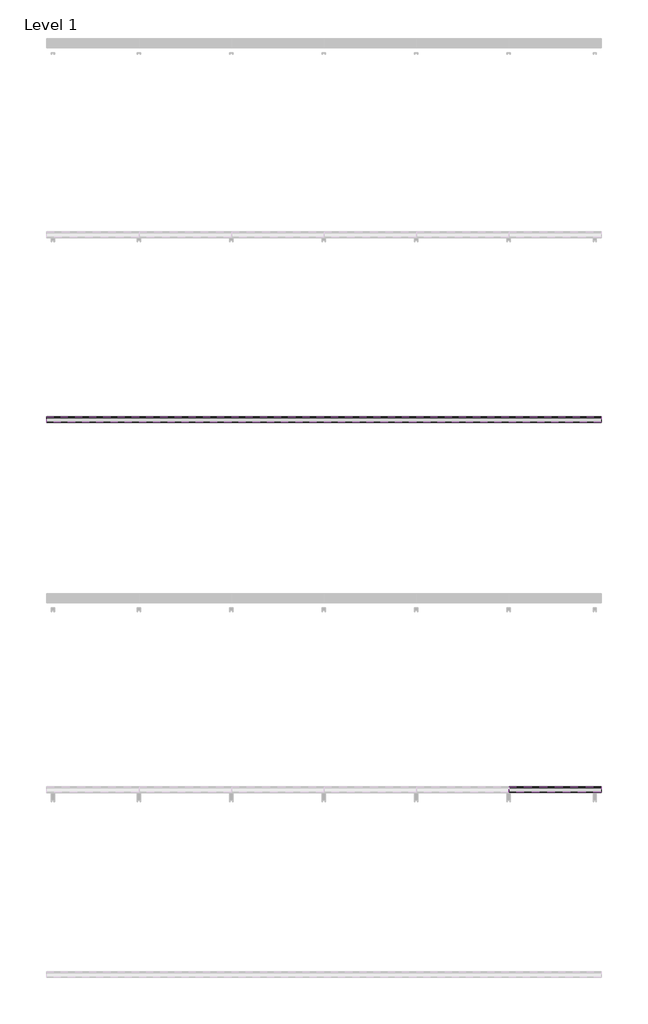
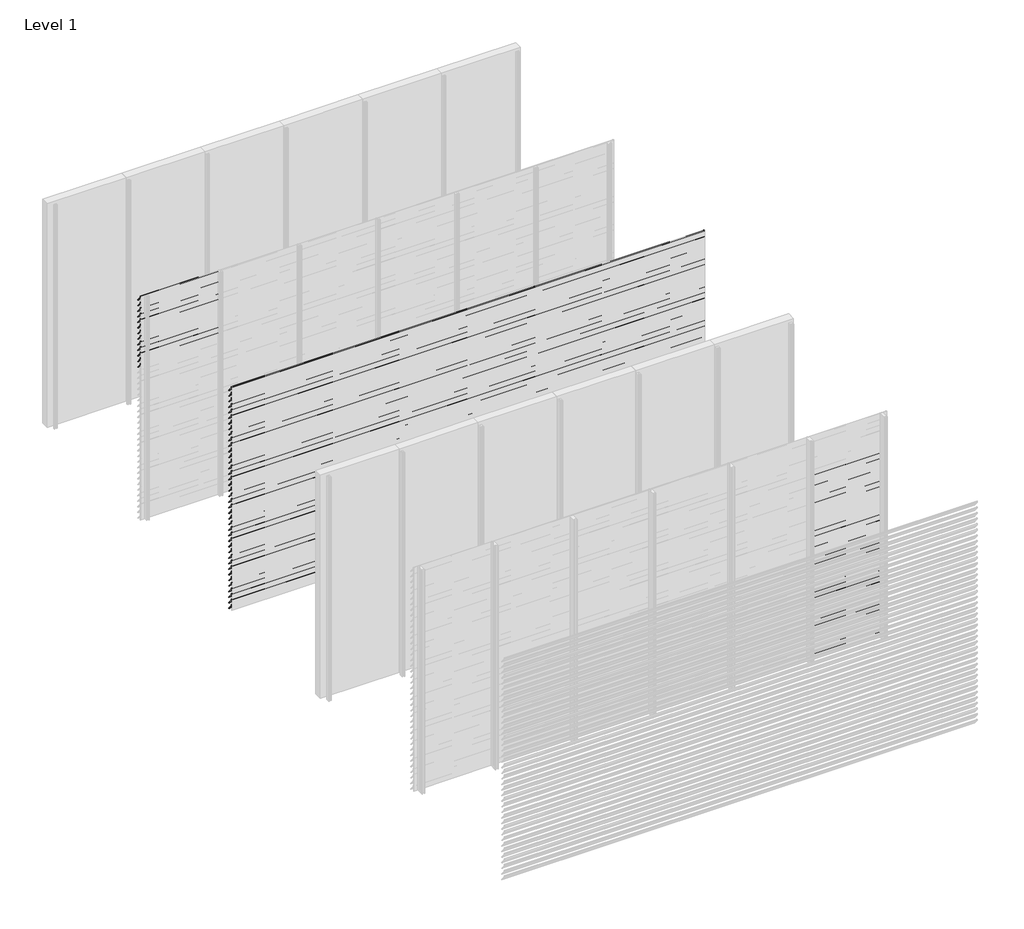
# One storey, part 26 of 35: 86 proxies.
"""IFC4 building model written with IfcOpenShell, lengths in millimetres."""

from ifc_helpers import new_model, si_unit, frame, origin, place, context, project, spatial, polyline, outline, extrude, element, save

model = new_model("IFC4")

# Units and contexts
model_context = context("Model", 3, world=origin())
ifc_project = project(units=[si_unit("LENGTHUNIT", "METRE", prefix="MILLI")], contexts=[model_context])

# Site, building, storey
site = spatial("IfcSite", under=ifc_project)
building = spatial("IfcBuilding", under=site)
storey = spatial("IfcBuildingStorey", under=building, Name="Level 1", Elevation=0.0)

# Proxies
placement = place(None, origin())
element("IfcBuildingElementProxy", 1, Name="Wall Sweeps", at=placement, inside=storey, context=model_context, shape_type="SweptSolid", body=[
    extrude(outline(polyline([(-11996.5, 3000.0), (-11996.5, 2985.5463701), (-11934.5, 2913.9330051), (-11934.5, 2910.4), (-11936.0, 2910.4), (-11936.0, 2913.3738975), (-11998.0, 2984.9872626), (-11998.0, 3000.0), (-11996.5, 3000.0)])), frame((0.0, 0.0, 0.0), z_axis=(1.0, 0.0, 0.0), x_axis=(0.0, 1.0, 0.0)), (0.0, 0.0, 1.0), 1000.0),
])
element("IfcBuildingElementProxy", 2, Name="Wall Sweeps", at=placement, inside=storey, context=model_context, shape_type="SweptSolid", body=[
    extrude(outline(polyline([(-11996.5, 2925.0), (-11996.5, 2910.5463701), (-11934.5, 2838.9330051), (-11934.5, 2835.4), (-11936.0, 2835.4), (-11936.0, 2838.3738975), (-11998.0, 2909.9872626), (-11998.0, 2925.0), (-11996.5, 2925.0)])), frame((0.0, 0.0, 0.0), z_axis=(1.0, 0.0, 0.0), x_axis=(0.0, 1.0, 0.0)), (0.0, 0.0, 1.0), 1000.0),
])
element("IfcBuildingElementProxy", 3, Name="Wall Sweeps", at=placement, inside=storey, context=model_context, shape_type="SweptSolid", body=[
    extrude(outline(polyline([(-11996.5, 2850.0), (-11996.5, 2835.5463701), (-11934.5, 2763.9330051), (-11934.5, 2760.4), (-11936.0, 2760.4), (-11936.0, 2763.3738975), (-11998.0, 2834.9872626), (-11998.0, 2850.0), (-11996.5, 2850.0)])), frame((0.0, 0.0, 0.0), z_axis=(1.0, 0.0, 0.0), x_axis=(0.0, 1.0, 0.0)), (0.0, 0.0, 1.0), 1000.0),
])
element("IfcBuildingElementProxy", 4, Name="Wall Sweeps", at=placement, inside=storey, context=model_context, shape_type="SweptSolid", body=[
    extrude(outline(polyline([(-11996.5, 2775.0), (-11996.5, 2760.5463701), (-11934.5, 2688.9330051), (-11934.5, 2685.4), (-11936.0, 2685.4), (-11936.0, 2688.3738975), (-11998.0, 2759.9872626), (-11998.0, 2775.0), (-11996.5, 2775.0)])), frame((0.0, 0.0, 0.0), z_axis=(1.0, 0.0, 0.0), x_axis=(0.0, 1.0, 0.0)), (0.0, 0.0, 1.0), 1000.0),
])
element("IfcBuildingElementProxy", 5, Name="Wall Sweeps", at=placement, inside=storey, context=model_context, shape_type="SweptSolid", body=[
    extrude(outline(polyline([(-11996.5, 2700.0), (-11996.5, 2685.5463701), (-11934.5, 2613.9330051), (-11934.5, 2610.4), (-11936.0, 2610.4), (-11936.0, 2613.3738975), (-11998.0, 2684.9872626), (-11998.0, 2700.0), (-11996.5, 2700.0)])), frame((0.0, 0.0, 0.0), z_axis=(1.0, 0.0, 0.0), x_axis=(0.0, 1.0, 0.0)), (0.0, 0.0, 1.0), 1000.0),
])
element("IfcBuildingElementProxy", 6, Name="Wall Sweeps", at=placement, inside=storey, context=model_context, shape_type="SweptSolid", body=[
    extrude(outline(polyline([(-11996.5, 2625.0), (-11996.5, 2610.5463701), (-11934.5, 2538.9330051), (-11934.5, 2535.4), (-11936.0, 2535.4), (-11936.0, 2538.3738975), (-11998.0, 2609.9872626), (-11998.0, 2625.0), (-11996.5, 2625.0)])), frame((0.0, 0.0, 0.0), z_axis=(1.0, 0.0, 0.0), x_axis=(0.0, 1.0, 0.0)), (0.0, 0.0, 1.0), 1000.0),
])
element("IfcBuildingElementProxy", 7, Name="Wall Sweeps", at=placement, inside=storey, context=model_context, shape_type="SweptSolid", body=[
    extrude(outline(polyline([(-11996.5, 2550.0), (-11996.5, 2535.5463701), (-11934.5, 2463.9330051), (-11934.5, 2460.4), (-11936.0, 2460.4), (-11936.0, 2463.3738975), (-11998.0, 2534.9872626), (-11998.0, 2550.0), (-11996.5, 2550.0)])), frame((0.0, 0.0, 0.0), z_axis=(1.0, 0.0, 0.0), x_axis=(0.0, 1.0, 0.0)), (0.0, 0.0, 1.0), 1000.0),
])
element("IfcBuildingElementProxy", 8, Name="Wall Sweeps", at=placement, inside=storey, context=model_context, shape_type="SweptSolid", body=[
    extrude(outline(polyline([(-11996.5, 2475.0), (-11996.5, 2460.5463701), (-11934.5, 2388.9330051), (-11934.5, 2385.4), (-11936.0, 2385.4), (-11936.0, 2388.3738975), (-11998.0, 2459.9872626), (-11998.0, 2475.0), (-11996.5, 2475.0)])), frame((0.0, 0.0, 0.0), z_axis=(1.0, 0.0, 0.0), x_axis=(0.0, 1.0, 0.0)), (0.0, 0.0, 1.0), 1000.0),
])
element("IfcBuildingElementProxy", 9, Name="Wall Sweeps", at=placement, inside=storey, context=model_context, shape_type="SweptSolid", body=[
    extrude(outline(polyline([(-11996.5, 2400.0), (-11996.5, 2385.5463701), (-11934.5, 2313.9330051), (-11934.5, 2310.4), (-11936.0, 2310.4), (-11936.0, 2313.3738975), (-11998.0, 2384.9872626), (-11998.0, 2400.0), (-11996.5, 2400.0)])), frame((0.0, 0.0, 0.0), z_axis=(1.0, 0.0, 0.0), x_axis=(0.0, 1.0, 0.0)), (0.0, 0.0, 1.0), 1000.0),
])
element("IfcBuildingElementProxy", 10, Name="Wall Sweeps", at=placement, inside=storey, context=model_context, shape_type="SweptSolid", body=[
    extrude(outline(polyline([(-11996.5, 2325.0), (-11996.5, 2310.5463701), (-11934.5, 2238.9330051), (-11934.5, 2235.4), (-11936.0, 2235.4), (-11936.0, 2238.3738975), (-11998.0, 2309.9872626), (-11998.0, 2325.0), (-11996.5, 2325.0)])), frame((0.0, 0.0, 0.0), z_axis=(1.0, 0.0, 0.0), x_axis=(0.0, 1.0, 0.0)), (0.0, 0.0, 1.0), 1000.0),
])
element("IfcBuildingElementProxy", 11, Name="Wall Sweeps", at=placement, inside=storey, context=model_context, shape_type="SweptSolid", body=[
    extrude(outline(polyline([(-11996.5, 2250.0), (-11996.5, 2235.5463701), (-11934.5, 2163.9330051), (-11934.5, 2160.4), (-11936.0, 2160.4), (-11936.0, 2163.3738975), (-11998.0, 2234.9872626), (-11998.0, 2250.0), (-11996.5, 2250.0)])), frame((0.0, 0.0, 0.0), z_axis=(1.0, 0.0, 0.0), x_axis=(0.0, 1.0, 0.0)), (0.0, 0.0, 1.0), 1000.0),
])
element("IfcBuildingElementProxy", 12, Name="Wall Sweeps", at=placement, inside=storey, context=model_context, shape_type="SweptSolid", body=[
    extrude(outline(polyline([(-11996.5, 2175.0), (-11996.5, 2160.5463701), (-11934.5, 2088.9330051), (-11934.5, 2085.4), (-11936.0, 2085.4), (-11936.0, 2088.3738975), (-11998.0, 2159.9872626), (-11998.0, 2175.0), (-11996.5, 2175.0)])), frame((0.0, 0.0, 0.0), z_axis=(1.0, 0.0, 0.0), x_axis=(0.0, 1.0, 0.0)), (0.0, 0.0, 1.0), 1000.0),
])
element("IfcBuildingElementProxy", 13, Name="Wall Sweeps", at=placement, inside=storey, context=model_context, shape_type="SweptSolid", body=[
    extrude(outline(polyline([(-11996.5, 2100.0), (-11996.5, 2085.5463701), (-11934.5, 2013.9330051), (-11934.5, 2010.4), (-11936.0, 2010.4), (-11936.0, 2013.3738975), (-11998.0, 2084.9872626), (-11998.0, 2100.0), (-11996.5, 2100.0)])), frame((0.0, 0.0, 0.0), z_axis=(1.0, 0.0, 0.0), x_axis=(0.0, 1.0, 0.0)), (0.0, 0.0, 1.0), 1000.0),
])
element("IfcBuildingElementProxy", 14, Name="Wall Sweeps", at=placement, inside=storey, context=model_context, shape_type="SweptSolid", body=[
    extrude(outline(polyline([(-13996.5, 3000.0), (-13996.5, 2985.5463701), (-13934.5, 2913.9330051), (-13934.5, 2910.4), (-13936.0, 2910.4), (-13936.0, 2913.3738975), (-13998.0, 2984.9872626), (-13998.0, 3000.0), (-13996.5, 3000.0)])), frame((0.0, 0.0, 0.0), z_axis=(1.0, 0.0, 0.0), x_axis=(0.0, 1.0, 0.0)), (0.0, 0.0, 1.0), 6000.0),
])
element("IfcBuildingElementProxy", 15, Name="Wall Sweeps", at=placement, inside=storey, context=model_context, shape_type="SweptSolid", body=[
    extrude(outline(polyline([(-13996.5, 2925.0), (-13996.5, 2910.5463701), (-13934.5, 2838.9330051), (-13934.5, 2835.4), (-13936.0, 2835.4), (-13936.0, 2838.3738975), (-13998.0, 2909.9872626), (-13998.0, 2925.0), (-13996.5, 2925.0)])), frame((0.0, 0.0, 0.0), z_axis=(1.0, 0.0, 0.0), x_axis=(0.0, 1.0, 0.0)), (0.0, 0.0, 1.0), 6000.0),
])
element("IfcBuildingElementProxy", 16, Name="Wall Sweeps", at=placement, inside=storey, context=model_context, shape_type="SweptSolid", body=[
    extrude(outline(polyline([(-13996.5, 2850.0), (-13996.5, 2835.5463701), (-13934.5, 2763.9330051), (-13934.5, 2760.4), (-13936.0, 2760.4), (-13936.0, 2763.3738975), (-13998.0, 2834.9872626), (-13998.0, 2850.0), (-13996.5, 2850.0)])), frame((0.0, 0.0, 0.0), z_axis=(1.0, 0.0, 0.0), x_axis=(0.0, 1.0, 0.0)), (0.0, 0.0, 1.0), 6000.0),
])
element("IfcBuildingElementProxy", 17, Name="Wall Sweeps", at=placement, inside=storey, context=model_context, shape_type="SweptSolid", body=[
    extrude(outline(polyline([(-13996.5, 2775.0), (-13996.5, 2760.5463701), (-13934.5, 2688.9330051), (-13934.5, 2685.4), (-13936.0, 2685.4), (-13936.0, 2688.3738975), (-13998.0, 2759.9872626), (-13998.0, 2775.0), (-13996.5, 2775.0)])), frame((0.0, 0.0, 0.0), z_axis=(1.0, 0.0, 0.0), x_axis=(0.0, 1.0, 0.0)), (0.0, 0.0, 1.0), 6000.0),
])
element("IfcBuildingElementProxy", 18, Name="Wall Sweeps", at=placement, inside=storey, context=model_context, shape_type="SweptSolid", body=[
    extrude(outline(polyline([(-13996.5, 2700.0), (-13996.5, 2685.5463701), (-13934.5, 2613.9330051), (-13934.5, 2610.4), (-13936.0, 2610.4), (-13936.0, 2613.3738975), (-13998.0, 2684.9872626), (-13998.0, 2700.0), (-13996.5, 2700.0)])), frame((0.0, 0.0, 0.0), z_axis=(1.0, 0.0, 0.0), x_axis=(0.0, 1.0, 0.0)), (0.0, 0.0, 1.0), 6000.0),
])
element("IfcBuildingElementProxy", 19, Name="Wall Sweeps", at=placement, inside=storey, context=model_context, shape_type="SweptSolid", body=[
    extrude(outline(polyline([(-13996.5, 2625.0), (-13996.5, 2610.5463701), (-13934.5, 2538.9330051), (-13934.5, 2535.4), (-13936.0, 2535.4), (-13936.0, 2538.3738975), (-13998.0, 2609.9872626), (-13998.0, 2625.0), (-13996.5, 2625.0)])), frame((0.0, 0.0, 0.0), z_axis=(1.0, 0.0, 0.0), x_axis=(0.0, 1.0, 0.0)), (0.0, 0.0, 1.0), 6000.0),
])
element("IfcBuildingElementProxy", 20, Name="Wall Sweeps", at=placement, inside=storey, context=model_context, shape_type="SweptSolid", body=[
    extrude(outline(polyline([(-13996.5, 2550.0), (-13996.5, 2535.5463701), (-13934.5, 2463.9330051), (-13934.5, 2460.4), (-13936.0, 2460.4), (-13936.0, 2463.3738975), (-13998.0, 2534.9872626), (-13998.0, 2550.0), (-13996.5, 2550.0)])), frame((0.0, 0.0, 0.0), z_axis=(1.0, 0.0, 0.0), x_axis=(0.0, 1.0, 0.0)), (0.0, 0.0, 1.0), 6000.0),
])
element("IfcBuildingElementProxy", 21, Name="Wall Sweeps", at=placement, inside=storey, context=model_context, shape_type="SweptSolid", body=[
    extrude(outline(polyline([(-13996.5, 2475.0), (-13996.5, 2460.5463701), (-13934.5, 2388.9330051), (-13934.5, 2385.4), (-13936.0, 2385.4), (-13936.0, 2388.3738975), (-13998.0, 2459.9872626), (-13998.0, 2475.0), (-13996.5, 2475.0)])), frame((0.0, 0.0, 0.0), z_axis=(1.0, 0.0, 0.0), x_axis=(0.0, 1.0, 0.0)), (0.0, 0.0, 1.0), 6000.0),
])
element("IfcBuildingElementProxy", 22, Name="Wall Sweeps", at=placement, inside=storey, context=model_context, shape_type="SweptSolid", body=[
    extrude(outline(polyline([(-13996.5, 2400.0), (-13996.5, 2385.5463701), (-13934.5, 2313.9330051), (-13934.5, 2310.4), (-13936.0, 2310.4), (-13936.0, 2313.3738975), (-13998.0, 2384.9872626), (-13998.0, 2400.0), (-13996.5, 2400.0)])), frame((0.0, 0.0, 0.0), z_axis=(1.0, 0.0, 0.0), x_axis=(0.0, 1.0, 0.0)), (0.0, 0.0, 1.0), 6000.0),
])
element("IfcBuildingElementProxy", 23, Name="Wall Sweeps", at=placement, inside=storey, context=model_context, shape_type="SweptSolid", body=[
    extrude(outline(polyline([(-13996.5, 2325.0), (-13996.5, 2310.5463701), (-13934.5, 2238.9330051), (-13934.5, 2235.4), (-13936.0, 2235.4), (-13936.0, 2238.3738975), (-13998.0, 2309.9872626), (-13998.0, 2325.0), (-13996.5, 2325.0)])), frame((0.0, 0.0, 0.0), z_axis=(1.0, 0.0, 0.0), x_axis=(0.0, 1.0, 0.0)), (0.0, 0.0, 1.0), 6000.0),
])
element("IfcBuildingElementProxy", 24, Name="Wall Sweeps", at=placement, inside=storey, context=model_context, shape_type="SweptSolid", body=[
    extrude(outline(polyline([(-13996.5, 2250.0), (-13996.5, 2235.5463701), (-13934.5, 2163.9330051), (-13934.5, 2160.4), (-13936.0, 2160.4), (-13936.0, 2163.3738975), (-13998.0, 2234.9872626), (-13998.0, 2250.0), (-13996.5, 2250.0)])), frame((0.0, 0.0, 0.0), z_axis=(1.0, 0.0, 0.0), x_axis=(0.0, 1.0, 0.0)), (0.0, 0.0, 1.0), 6000.0),
])
element("IfcBuildingElementProxy", 25, Name="Wall Sweeps", at=placement, inside=storey, context=model_context, shape_type="SweptSolid", body=[
    extrude(outline(polyline([(-13996.5, 2175.0), (-13996.5, 2160.5463701), (-13934.5, 2088.9330051), (-13934.5, 2085.4), (-13936.0, 2085.4), (-13936.0, 2088.3738975), (-13998.0, 2159.9872626), (-13998.0, 2175.0), (-13996.5, 2175.0)])), frame((0.0, 0.0, 0.0), z_axis=(1.0, 0.0, 0.0), x_axis=(0.0, 1.0, 0.0)), (0.0, 0.0, 1.0), 6000.0),
])
element("IfcBuildingElementProxy", 26, Name="Wall Sweeps", at=placement, inside=storey, context=model_context, shape_type="SweptSolid", body=[
    extrude(outline(polyline([(-13996.5, 2100.0), (-13996.5, 2085.5463701), (-13934.5, 2013.9330051), (-13934.5, 2010.4), (-13936.0, 2010.4), (-13936.0, 2013.3738975), (-13998.0, 2084.9872626), (-13998.0, 2100.0), (-13996.5, 2100.0)])), frame((0.0, 0.0, 0.0), z_axis=(1.0, 0.0, 0.0), x_axis=(0.0, 1.0, 0.0)), (0.0, 0.0, 1.0), 6000.0),
])
element("IfcBuildingElementProxy", 27, Name="Wall Sweeps", at=placement, inside=storey, context=model_context, shape_type="SweptSolid", body=[
    extrude(outline(polyline([(-13996.5, 2025.0), (-13996.5, 2010.5463701), (-13934.5, 1938.9330051), (-13934.5, 1935.4), (-13936.0, 1935.4), (-13936.0, 1938.3738975), (-13998.0, 2009.9872626), (-13998.0, 2025.0), (-13996.5, 2025.0)])), frame((0.0, 0.0, 0.0), z_axis=(1.0, 0.0, 0.0), x_axis=(0.0, 1.0, 0.0)), (0.0, 0.0, 1.0), 6000.0),
])
element("IfcBuildingElementProxy", 28, Name="Wall Sweeps", at=placement, inside=storey, context=model_context, shape_type="SweptSolid", body=[
    extrude(outline(polyline([(-13996.5, 1950.0), (-13996.5, 1935.5463701), (-13934.5, 1863.9330051), (-13934.5, 1860.4), (-13936.0, 1860.4), (-13936.0, 1863.3738975), (-13998.0, 1934.9872626), (-13998.0, 1950.0), (-13996.5, 1950.0)])), frame((0.0, 0.0, 0.0), z_axis=(1.0, 0.0, 0.0), x_axis=(0.0, 1.0, 0.0)), (0.0, 0.0, 1.0), 6000.0),
])
element("IfcBuildingElementProxy", 29, Name="Wall Sweeps", at=placement, inside=storey, context=model_context, shape_type="SweptSolid", body=[
    extrude(outline(polyline([(-13996.5, 1875.0), (-13996.5, 1860.5463701), (-13934.5, 1788.9330051), (-13934.5, 1785.4), (-13936.0, 1785.4), (-13936.0, 1788.3738975), (-13998.0, 1859.9872626), (-13998.0, 1875.0), (-13996.5, 1875.0)])), frame((0.0, 0.0, 0.0), z_axis=(1.0, 0.0, 0.0), x_axis=(0.0, 1.0, 0.0)), (0.0, 0.0, 1.0), 6000.0),
])
element("IfcBuildingElementProxy", 30, Name="Wall Sweeps", at=placement, inside=storey, context=model_context, shape_type="SweptSolid", body=[
    extrude(outline(polyline([(-13996.5, 1800.0), (-13996.5, 1785.5463701), (-13934.5, 1713.9330051), (-13934.5, 1710.4), (-13936.0, 1710.4), (-13936.0, 1713.3738975), (-13998.0, 1784.9872626), (-13998.0, 1800.0), (-13996.5, 1800.0)])), frame((0.0, 0.0, 0.0), z_axis=(1.0, 0.0, 0.0), x_axis=(0.0, 1.0, 0.0)), (0.0, 0.0, 1.0), 6000.0),
])
element("IfcBuildingElementProxy", 31, Name="Wall Sweeps", at=placement, inside=storey, context=model_context, shape_type="SweptSolid", body=[
    extrude(outline(polyline([(-13996.5, 1725.0), (-13996.5, 1710.5463701), (-13934.5, 1638.9330051), (-13934.5, 1635.4), (-13936.0, 1635.4), (-13936.0, 1638.3738975), (-13998.0, 1709.9872626), (-13998.0, 1725.0), (-13996.5, 1725.0)])), frame((0.0, 0.0, 0.0), z_axis=(1.0, 0.0, 0.0), x_axis=(0.0, 1.0, 0.0)), (0.0, 0.0, 1.0), 6000.0),
])
element("IfcBuildingElementProxy", 32, Name="Wall Sweeps", at=placement, inside=storey, context=model_context, shape_type="SweptSolid", body=[
    extrude(outline(polyline([(-13996.5, 1650.0), (-13996.5, 1635.5463701), (-13934.5, 1563.9330051), (-13934.5, 1560.4), (-13936.0, 1560.4), (-13936.0, 1563.3738975), (-13998.0, 1634.9872626), (-13998.0, 1650.0), (-13996.5, 1650.0)])), frame((0.0, 0.0, 0.0), z_axis=(1.0, 0.0, 0.0), x_axis=(0.0, 1.0, 0.0)), (0.0, 0.0, 1.0), 6000.0),
])
element("IfcBuildingElementProxy", 33, Name="Wall Sweeps", at=placement, inside=storey, context=model_context, shape_type="SweptSolid", body=[
    extrude(outline(polyline([(-13996.5, 1575.0), (-13996.5, 1560.5463701), (-13934.5, 1488.9330051), (-13934.5, 1485.4), (-13936.0, 1485.4), (-13936.0, 1488.3738975), (-13998.0, 1559.9872626), (-13998.0, 1575.0), (-13996.5, 1575.0)])), frame((0.0, 0.0, 0.0), z_axis=(1.0, 0.0, 0.0), x_axis=(0.0, 1.0, 0.0)), (0.0, 0.0, 1.0), 6000.0),
])
element("IfcBuildingElementProxy", 34, Name="Wall Sweeps", at=placement, inside=storey, context=model_context, shape_type="SweptSolid", body=[
    extrude(outline(polyline([(-13996.5, 1500.0), (-13996.5, 1485.5463701), (-13934.5, 1413.9330051), (-13934.5, 1410.4), (-13936.0, 1410.4), (-13936.0, 1413.3738975), (-13998.0, 1484.9872626), (-13998.0, 1500.0), (-13996.5, 1500.0)])), frame((0.0, 0.0, 0.0), z_axis=(1.0, 0.0, 0.0), x_axis=(0.0, 1.0, 0.0)), (0.0, 0.0, 1.0), 6000.0),
])
element("IfcBuildingElementProxy", 35, Name="Wall Sweeps", at=placement, inside=storey, context=model_context, shape_type="SweptSolid", body=[
    extrude(outline(polyline([(-13996.5, 1425.0), (-13996.5, 1410.5463701), (-13934.5, 1338.9330051), (-13934.5, 1335.4), (-13936.0, 1335.4), (-13936.0, 1338.3738975), (-13998.0, 1409.9872626), (-13998.0, 1425.0), (-13996.5, 1425.0)])), frame((0.0, 0.0, 0.0), z_axis=(1.0, 0.0, 0.0), x_axis=(0.0, 1.0, 0.0)), (0.0, 0.0, 1.0), 6000.0),
])
element("IfcBuildingElementProxy", 36, Name="Wall Sweeps", at=placement, inside=storey, context=model_context, shape_type="SweptSolid", body=[
    extrude(outline(polyline([(-13996.5, 1350.0), (-13996.5, 1335.5463701), (-13934.5, 1263.9330051), (-13934.5, 1260.4), (-13936.0, 1260.4), (-13936.0, 1263.3738975), (-13998.0, 1334.9872626), (-13998.0, 1350.0), (-13996.5, 1350.0)])), frame((0.0, 0.0, 0.0), z_axis=(1.0, 0.0, 0.0), x_axis=(0.0, 1.0, 0.0)), (0.0, 0.0, 1.0), 6000.0),
])
element("IfcBuildingElementProxy", 37, Name="Wall Sweeps", at=placement, inside=storey, context=model_context, shape_type="SweptSolid", body=[
    extrude(outline(polyline([(-13996.5, 1275.0), (-13996.5, 1260.5463701), (-13934.5, 1188.9330051), (-13934.5, 1185.4), (-13936.0, 1185.4), (-13936.0, 1188.3738975), (-13998.0, 1259.9872626), (-13998.0, 1275.0), (-13996.5, 1275.0)])), frame((0.0, 0.0, 0.0), z_axis=(1.0, 0.0, 0.0), x_axis=(0.0, 1.0, 0.0)), (0.0, 0.0, 1.0), 6000.0),
])
element("IfcBuildingElementProxy", 38, Name="Wall Sweeps", at=placement, inside=storey, context=model_context, shape_type="SweptSolid", body=[
    extrude(outline(polyline([(-13996.5, 1200.0), (-13996.5, 1185.5463701), (-13934.5, 1113.9330051), (-13934.5, 1110.4), (-13936.0, 1110.4), (-13936.0, 1113.3738975), (-13998.0, 1184.9872626), (-13998.0, 1200.0), (-13996.5, 1200.0)])), frame((0.0, 0.0, 0.0), z_axis=(1.0, 0.0, 0.0), x_axis=(0.0, 1.0, 0.0)), (0.0, 0.0, 1.0), 6000.0),
])
element("IfcBuildingElementProxy", 39, Name="Wall Sweeps", at=placement, inside=storey, context=model_context, shape_type="SweptSolid", body=[
    extrude(outline(polyline([(-13996.5, 1125.0), (-13996.5, 1110.5463701), (-13934.5, 1038.9330051), (-13934.5, 1035.4), (-13936.0, 1035.4), (-13936.0, 1038.3738975), (-13998.0, 1109.9872626), (-13998.0, 1125.0), (-13996.5, 1125.0)])), frame((0.0, 0.0, 0.0), z_axis=(1.0, 0.0, 0.0), x_axis=(0.0, 1.0, 0.0)), (0.0, 0.0, 1.0), 6000.0),
])
element("IfcBuildingElementProxy", 40, Name="Wall Sweeps", at=placement, inside=storey, context=model_context, shape_type="SweptSolid", body=[
    extrude(outline(polyline([(-13996.5, 1050.0), (-13996.5, 1035.5463701), (-13934.5, 963.9330051), (-13934.5, 960.4), (-13936.0, 960.4), (-13936.0, 963.3738975), (-13998.0, 1034.9872626), (-13998.0, 1050.0), (-13996.5, 1050.0)])), frame((0.0, 0.0, 0.0), z_axis=(1.0, 0.0, 0.0), x_axis=(0.0, 1.0, 0.0)), (0.0, 0.0, 1.0), 6000.0),
])
element("IfcBuildingElementProxy", 41, Name="Wall Sweeps", at=placement, inside=storey, context=model_context, shape_type="SweptSolid", body=[
    extrude(outline(polyline([(-13996.5, 975.0), (-13996.5, 960.5463701), (-13934.5, 888.9330051), (-13934.5, 885.4), (-13936.0, 885.4), (-13936.0, 888.3738975), (-13998.0, 959.9872626), (-13998.0, 975.0), (-13996.5, 975.0)])), frame((0.0, 0.0, 0.0), z_axis=(1.0, 0.0, 0.0), x_axis=(0.0, 1.0, 0.0)), (0.0, 0.0, 1.0), 6000.0),
])
element("IfcBuildingElementProxy", 42, Name="Wall Sweeps", at=placement, inside=storey, context=model_context, shape_type="SweptSolid", body=[
    extrude(outline(polyline([(-13996.5, 900.0), (-13996.5, 885.5463701), (-13934.5, 813.9330051), (-13934.5, 810.4), (-13936.0, 810.4), (-13936.0, 813.3738975), (-13998.0, 884.9872626), (-13998.0, 900.0), (-13996.5, 900.0)])), frame((0.0, 0.0, 0.0), z_axis=(1.0, 0.0, 0.0), x_axis=(0.0, 1.0, 0.0)), (0.0, 0.0, 1.0), 6000.0),
])
element("IfcBuildingElementProxy", 43, Name="Wall Sweeps", at=placement, inside=storey, context=model_context, shape_type="SweptSolid", body=[
    extrude(outline(polyline([(-13996.5, 825.0), (-13996.5, 810.5463701), (-13934.5, 738.9330051), (-13934.5, 735.4), (-13936.0, 735.4), (-13936.0, 738.3738975), (-13998.0, 809.9872626), (-13998.0, 825.0), (-13996.5, 825.0)])), frame((0.0, 0.0, 0.0), z_axis=(1.0, 0.0, 0.0), x_axis=(0.0, 1.0, 0.0)), (0.0, 0.0, 1.0), 6000.0),
])
element("IfcBuildingElementProxy", 44, Name="Wall Sweeps", at=placement, inside=storey, context=model_context, shape_type="SweptSolid", body=[
    extrude(outline(polyline([(-13996.5, 750.0), (-13996.5, 735.5463701), (-13934.5, 663.9330051), (-13934.5, 660.4), (-13936.0, 660.4), (-13936.0, 663.3738975), (-13998.0, 734.9872626), (-13998.0, 750.0), (-13996.5, 750.0)])), frame((0.0, 0.0, 0.0), z_axis=(1.0, 0.0, 0.0), x_axis=(0.0, 1.0, 0.0)), (0.0, 0.0, 1.0), 6000.0),
])
element("IfcBuildingElementProxy", 45, Name="Wall Sweeps", at=placement, inside=storey, context=model_context, shape_type="SweptSolid", body=[
    extrude(outline(polyline([(-13996.5, 675.0), (-13996.5, 660.5463701), (-13934.5, 588.9330051), (-13934.5, 585.4), (-13936.0, 585.4), (-13936.0, 588.3738975), (-13998.0, 659.9872626), (-13998.0, 675.0), (-13996.5, 675.0)])), frame((0.0, 0.0, 0.0), z_axis=(1.0, 0.0, 0.0), x_axis=(0.0, 1.0, 0.0)), (0.0, 0.0, 1.0), 6000.0),
])
element("IfcBuildingElementProxy", 46, Name="Wall Sweeps", at=placement, inside=storey, context=model_context, shape_type="SweptSolid", body=[
    extrude(outline(polyline([(-13996.5, 600.0), (-13996.5, 585.5463701), (-13934.5, 513.9330051), (-13934.5, 510.4), (-13936.0, 510.4), (-13936.0, 513.3738975), (-13998.0, 584.9872626), (-13998.0, 600.0), (-13996.5, 600.0)])), frame((0.0, 0.0, 0.0), z_axis=(1.0, 0.0, 0.0), x_axis=(0.0, 1.0, 0.0)), (0.0, 0.0, 1.0), 6000.0),
])
element("IfcBuildingElementProxy", 47, Name="Wall Sweeps", at=placement, inside=storey, context=model_context, shape_type="SweptSolid", body=[
    extrude(outline(polyline([(-13996.5, 525.0), (-13996.5, 510.5463701), (-13934.5, 438.9330051), (-13934.5, 435.4), (-13936.0, 435.4), (-13936.0, 438.3738975), (-13998.0, 509.9872626), (-13998.0, 525.0), (-13996.5, 525.0)])), frame((0.0, 0.0, 0.0), z_axis=(1.0, 0.0, 0.0), x_axis=(0.0, 1.0, 0.0)), (0.0, 0.0, 1.0), 6000.0),
])
element("IfcBuildingElementProxy", 48, Name="Wall Sweeps", at=placement, inside=storey, context=model_context, shape_type="SweptSolid", body=[
    extrude(outline(polyline([(-13996.5, 450.0), (-13996.5, 435.5463701), (-13934.5, 363.9330051), (-13934.5, 360.4), (-13936.0, 360.4), (-13936.0, 363.3738975), (-13998.0, 434.9872626), (-13998.0, 450.0), (-13996.5, 450.0)])), frame((0.0, 0.0, 0.0), z_axis=(1.0, 0.0, 0.0), x_axis=(0.0, 1.0, 0.0)), (0.0, 0.0, 1.0), 6000.0),
])
element("IfcBuildingElementProxy", 49, Name="Wall Sweeps", at=placement, inside=storey, context=model_context, shape_type="SweptSolid", body=[
    extrude(outline(polyline([(-13996.5, 375.0), (-13996.5, 360.5463701), (-13934.5, 288.9330051), (-13934.5, 285.4), (-13936.0, 285.4), (-13936.0, 288.3738975), (-13998.0, 359.9872626), (-13998.0, 375.0), (-13996.5, 375.0)])), frame((0.0, 0.0, 0.0), z_axis=(1.0, 0.0, 0.0), x_axis=(0.0, 1.0, 0.0)), (0.0, 0.0, 1.0), 6000.0),
])
element("IfcBuildingElementProxy", 50, Name="Wall Sweeps", at=placement, inside=storey, context=model_context, shape_type="SweptSolid", body=[
    extrude(outline(polyline([(-13996.5, 300.0), (-13996.5, 285.5463701), (-13934.5, 213.9330051), (-13934.5, 210.4), (-13936.0, 210.4), (-13936.0, 213.3738975), (-13998.0, 284.9872626), (-13998.0, 300.0), (-13996.5, 300.0)])), frame((0.0, 0.0, 0.0), z_axis=(1.0, 0.0, 0.0), x_axis=(0.0, 1.0, 0.0)), (0.0, 0.0, 1.0), 6000.0),
])
element("IfcBuildingElementProxy", 51, Name="Wall Sweeps", at=placement, inside=storey, context=model_context, shape_type="SweptSolid", body=[
    extrude(outline(polyline([(-13996.5, 225.0), (-13996.5, 210.5463701), (-13934.5, 138.9330051), (-13934.5, 135.4), (-13936.0, 135.4), (-13936.0, 138.3738975), (-13998.0, 209.9872626), (-13998.0, 225.0), (-13996.5, 225.0)])), frame((0.0, 0.0, 0.0), z_axis=(1.0, 0.0, 0.0), x_axis=(0.0, 1.0, 0.0)), (0.0, 0.0, 1.0), 6000.0),
])
element("IfcBuildingElementProxy", 52, Name="Wall Sweeps", at=placement, inside=storey, context=model_context, shape_type="SweptSolid", body=[
    extrude(outline(polyline([(-13996.5, 150.0), (-13996.5, 135.5463701), (-13934.5, 63.9330051), (-13934.5, 60.4), (-13936.0, 60.4), (-13936.0, 63.3738975), (-13998.0, 134.9872626), (-13998.0, 150.0), (-13996.5, 150.0)])), frame((0.0, 0.0, 0.0), z_axis=(1.0, 0.0, 0.0), x_axis=(0.0, 1.0, 0.0)), (0.0, 0.0, 1.0), 6000.0),
])
element("IfcBuildingElementProxy", 53, Name="Wall Sweeps", at=placement, inside=storey, context=model_context, shape_type="SweptSolid", body=[
    extrude(outline(polyline([(-13996.5, 75.0), (-13996.5, 60.5463701), (-13934.5, -11.0669949), (-13934.5, -14.6), (-13936.0, -14.6), (-13936.0, -11.6261025), (-13998.0, 59.9872626), (-13998.0, 75.0), (-13996.5, 75.0)])), frame((0.0, 0.0, 0.0), z_axis=(1.0, 0.0, 0.0), x_axis=(0.0, 1.0, 0.0)), (0.0, 0.0, 1.0), 6000.0),
])
element("IfcBuildingElementProxy", 54, Name="Wall Sweeps", at=placement, inside=storey, context=model_context, shape_type="SweptSolid", body=[
    extrude(outline(polyline([(-17996.5, 2475.0), (-17996.5, 2460.5463701), (-17934.5, 2388.9330051), (-17934.5, 2385.4), (-17936.0, 2385.4), (-17936.0, 2388.3738975), (-17998.0, 2459.9872626), (-17998.0, 2475.0), (-17996.5, 2475.0)])), frame((5000.0, 0.0, 0.0), z_axis=(1.0, 0.0, 0.0), x_axis=(0.0, 1.0, 0.0)), (0.0, 0.0, 1.0), 1000.0),
])
element("IfcBuildingElementProxy", 55, Name="Wall Sweeps", at=placement, inside=storey, context=model_context, shape_type="SweptSolid", body=[
    extrude(outline(polyline([(-17996.5, 2400.0), (-17996.5, 2385.5463701), (-17934.5, 2313.9330051), (-17934.5, 2310.4), (-17936.0, 2310.4), (-17936.0, 2313.3738975), (-17998.0, 2384.9872626), (-17998.0, 2400.0), (-17996.5, 2400.0)])), frame((5000.0, 0.0, 0.0), z_axis=(1.0, 0.0, 0.0), x_axis=(0.0, 1.0, 0.0)), (0.0, 0.0, 1.0), 1000.0),
])
element("IfcBuildingElementProxy", 56, Name="Wall Sweeps", at=placement, inside=storey, context=model_context, shape_type="SweptSolid", body=[
    extrude(outline(polyline([(-17996.5, 2325.0), (-17996.5, 2310.5463701), (-17934.5, 2238.9330051), (-17934.5, 2235.4), (-17936.0, 2235.4), (-17936.0, 2238.3738975), (-17998.0, 2309.9872626), (-17998.0, 2325.0), (-17996.5, 2325.0)])), frame((5000.0, 0.0, 0.0), z_axis=(1.0, 0.0, 0.0), x_axis=(0.0, 1.0, 0.0)), (0.0, 0.0, 1.0), 1000.0),
])
element("IfcBuildingElementProxy", 57, Name="Wall Sweeps", at=placement, inside=storey, context=model_context, shape_type="SweptSolid", body=[
    extrude(outline(polyline([(-17996.5, 2250.0), (-17996.5, 2235.5463701), (-17934.5, 2163.9330051), (-17934.5, 2160.4), (-17936.0, 2160.4), (-17936.0, 2163.3738975), (-17998.0, 2234.9872626), (-17998.0, 2250.0), (-17996.5, 2250.0)])), frame((5000.0, 0.0, 0.0), z_axis=(1.0, 0.0, 0.0), x_axis=(0.0, 1.0, 0.0)), (0.0, 0.0, 1.0), 1000.0),
])
element("IfcBuildingElementProxy", 58, Name="Wall Sweeps", at=placement, inside=storey, context=model_context, shape_type="SweptSolid", body=[
    extrude(outline(polyline([(-17996.5, 2175.0), (-17996.5, 2160.5463701), (-17934.5, 2088.9330051), (-17934.5, 2085.4), (-17936.0, 2085.4), (-17936.0, 2088.3738975), (-17998.0, 2159.9872626), (-17998.0, 2175.0), (-17996.5, 2175.0)])), frame((5000.0, 0.0, 0.0), z_axis=(1.0, 0.0, 0.0), x_axis=(0.0, 1.0, 0.0)), (0.0, 0.0, 1.0), 1000.0),
])
element("IfcBuildingElementProxy", 59, Name="Wall Sweeps", at=placement, inside=storey, context=model_context, shape_type="SweptSolid", body=[
    extrude(outline(polyline([(-17996.5, 2100.0), (-17996.5, 2085.5463701), (-17934.5, 2013.9330051), (-17934.5, 2010.4), (-17936.0, 2010.4), (-17936.0, 2013.3738975), (-17998.0, 2084.9872626), (-17998.0, 2100.0), (-17996.5, 2100.0)])), frame((5000.0, 0.0, 0.0), z_axis=(1.0, 0.0, 0.0), x_axis=(0.0, 1.0, 0.0)), (0.0, 0.0, 1.0), 1000.0),
])
element("IfcBuildingElementProxy", 60, Name="Wall Sweeps", at=placement, inside=storey, context=model_context, shape_type="SweptSolid", body=[
    extrude(outline(polyline([(-17996.5, 2025.0), (-17996.5, 2010.5463701), (-17934.5, 1938.9330051), (-17934.5, 1935.4), (-17936.0, 1935.4), (-17936.0, 1938.3738975), (-17998.0, 2009.9872626), (-17998.0, 2025.0), (-17996.5, 2025.0)])), frame((5000.0, 0.0, 0.0), z_axis=(1.0, 0.0, 0.0), x_axis=(0.0, 1.0, 0.0)), (0.0, 0.0, 1.0), 1000.0),
])
element("IfcBuildingElementProxy", 61, Name="Wall Sweeps", at=placement, inside=storey, context=model_context, shape_type="SweptSolid", body=[
    extrude(outline(polyline([(-17996.5, 1950.0), (-17996.5, 1935.5463701), (-17934.5, 1863.9330051), (-17934.5, 1860.4), (-17936.0, 1860.4), (-17936.0, 1863.3738975), (-17998.0, 1934.9872626), (-17998.0, 1950.0), (-17996.5, 1950.0)])), frame((5000.0, 0.0, 0.0), z_axis=(1.0, 0.0, 0.0), x_axis=(0.0, 1.0, 0.0)), (0.0, 0.0, 1.0), 1000.0),
])
element("IfcBuildingElementProxy", 62, Name="Wall Sweeps", at=placement, inside=storey, context=model_context, shape_type="SweptSolid", body=[
    extrude(outline(polyline([(-17996.5, 1875.0), (-17996.5, 1860.5463701), (-17934.5, 1788.9330051), (-17934.5, 1785.4), (-17936.0, 1785.4), (-17936.0, 1788.3738975), (-17998.0, 1859.9872626), (-17998.0, 1875.0), (-17996.5, 1875.0)])), frame((5000.0, 0.0, 0.0), z_axis=(1.0, 0.0, 0.0), x_axis=(0.0, 1.0, 0.0)), (0.0, 0.0, 1.0), 1000.0),
])
element("IfcBuildingElementProxy", 63, Name="Wall Sweeps", at=placement, inside=storey, context=model_context, shape_type="SweptSolid", body=[
    extrude(outline(polyline([(-17996.5, 1800.0), (-17996.5, 1785.5463701), (-17934.5, 1713.9330051), (-17934.5, 1710.4), (-17936.0, 1710.4), (-17936.0, 1713.3738975), (-17998.0, 1784.9872626), (-17998.0, 1800.0), (-17996.5, 1800.0)])), frame((5000.0, 0.0, 0.0), z_axis=(1.0, 0.0, 0.0), x_axis=(0.0, 1.0, 0.0)), (0.0, 0.0, 1.0), 1000.0),
])
element("IfcBuildingElementProxy", 64, Name="Wall Sweeps", at=placement, inside=storey, context=model_context, shape_type="SweptSolid", body=[
    extrude(outline(polyline([(-17996.5, 1725.0), (-17996.5, 1710.5463701), (-17934.5, 1638.9330051), (-17934.5, 1635.4), (-17936.0, 1635.4), (-17936.0, 1638.3738975), (-17998.0, 1709.9872626), (-17998.0, 1725.0), (-17996.5, 1725.0)])), frame((5000.0, 0.0, 0.0), z_axis=(1.0, 0.0, 0.0), x_axis=(0.0, 1.0, 0.0)), (0.0, 0.0, 1.0), 1000.0),
])
element("IfcBuildingElementProxy", 65, Name="Wall Sweeps", at=placement, inside=storey, context=model_context, shape_type="SweptSolid", body=[
    extrude(outline(polyline([(-17996.5, 1650.0), (-17996.5, 1635.5463701), (-17934.5, 1563.9330051), (-17934.5, 1560.4), (-17936.0, 1560.4), (-17936.0, 1563.3738975), (-17998.0, 1634.9872626), (-17998.0, 1650.0), (-17996.5, 1650.0)])), frame((5000.0, 0.0, 0.0), z_axis=(1.0, 0.0, 0.0), x_axis=(0.0, 1.0, 0.0)), (0.0, 0.0, 1.0), 1000.0),
])
element("IfcBuildingElementProxy", 66, Name="Wall Sweeps", at=placement, inside=storey, context=model_context, shape_type="SweptSolid", body=[
    extrude(outline(polyline([(-17996.5, 1575.0), (-17996.5, 1560.5463701), (-17934.5, 1488.9330051), (-17934.5, 1485.4), (-17936.0, 1485.4), (-17936.0, 1488.3738975), (-17998.0, 1559.9872626), (-17998.0, 1575.0), (-17996.5, 1575.0)])), frame((5000.0, 0.0, 0.0), z_axis=(1.0, 0.0, 0.0), x_axis=(0.0, 1.0, 0.0)), (0.0, 0.0, 1.0), 1000.0),
])
element("IfcBuildingElementProxy", 67, Name="Wall Sweeps", at=placement, inside=storey, context=model_context, shape_type="SweptSolid", body=[
    extrude(outline(polyline([(-17996.5, 1500.0), (-17996.5, 1485.5463701), (-17934.5, 1413.9330051), (-17934.5, 1410.4), (-17936.0, 1410.4), (-17936.0, 1413.3738975), (-17998.0, 1484.9872626), (-17998.0, 1500.0), (-17996.5, 1500.0)])), frame((5000.0, 0.0, 0.0), z_axis=(1.0, 0.0, 0.0), x_axis=(0.0, 1.0, 0.0)), (0.0, 0.0, 1.0), 1000.0),
])
element("IfcBuildingElementProxy", 68, Name="Wall Sweeps", at=placement, inside=storey, context=model_context, shape_type="SweptSolid", body=[
    extrude(outline(polyline([(-17996.5, 1425.0), (-17996.5, 1410.5463701), (-17934.5, 1338.9330051), (-17934.5, 1335.4), (-17936.0, 1335.4), (-17936.0, 1338.3738975), (-17998.0, 1409.9872626), (-17998.0, 1425.0), (-17996.5, 1425.0)])), frame((5000.0, 0.0, 0.0), z_axis=(1.0, 0.0, 0.0), x_axis=(0.0, 1.0, 0.0)), (0.0, 0.0, 1.0), 1000.0),
])
element("IfcBuildingElementProxy", 69, Name="Wall Sweeps", at=placement, inside=storey, context=model_context, shape_type="SweptSolid", body=[
    extrude(outline(polyline([(-17996.5, 1350.0), (-17996.5, 1335.5463701), (-17934.5, 1263.9330051), (-17934.5, 1260.4), (-17936.0, 1260.4), (-17936.0, 1263.3738975), (-17998.0, 1334.9872626), (-17998.0, 1350.0), (-17996.5, 1350.0)])), frame((5000.0, 0.0, 0.0), z_axis=(1.0, 0.0, 0.0), x_axis=(0.0, 1.0, 0.0)), (0.0, 0.0, 1.0), 1000.0),
])
element("IfcBuildingElementProxy", 70, Name="Wall Sweeps", at=placement, inside=storey, context=model_context, shape_type="SweptSolid", body=[
    extrude(outline(polyline([(-17996.5, 1275.0), (-17996.5, 1260.5463701), (-17934.5, 1188.9330051), (-17934.5, 1185.4), (-17936.0, 1185.4), (-17936.0, 1188.3738975), (-17998.0, 1259.9872626), (-17998.0, 1275.0), (-17996.5, 1275.0)])), frame((5000.0, 0.0, 0.0), z_axis=(1.0, 0.0, 0.0), x_axis=(0.0, 1.0, 0.0)), (0.0, 0.0, 1.0), 1000.0),
])
element("IfcBuildingElementProxy", 71, Name="Wall Sweeps", at=placement, inside=storey, context=model_context, shape_type="SweptSolid", body=[
    extrude(outline(polyline([(-17996.5, 1200.0), (-17996.5, 1185.5463701), (-17934.5, 1113.9330051), (-17934.5, 1110.4), (-17936.0, 1110.4), (-17936.0, 1113.3738975), (-17998.0, 1184.9872626), (-17998.0, 1200.0), (-17996.5, 1200.0)])), frame((5000.0, 0.0, 0.0), z_axis=(1.0, 0.0, 0.0), x_axis=(0.0, 1.0, 0.0)), (0.0, 0.0, 1.0), 1000.0),
])
element("IfcBuildingElementProxy", 72, Name="Wall Sweeps", at=placement, inside=storey, context=model_context, shape_type="SweptSolid", body=[
    extrude(outline(polyline([(-17996.5, 1125.0), (-17996.5, 1110.5463701), (-17934.5, 1038.9330051), (-17934.5, 1035.4), (-17936.0, 1035.4), (-17936.0, 1038.3738975), (-17998.0, 1109.9872626), (-17998.0, 1125.0), (-17996.5, 1125.0)])), frame((5000.0, 0.0, 0.0), z_axis=(1.0, 0.0, 0.0), x_axis=(0.0, 1.0, 0.0)), (0.0, 0.0, 1.0), 1000.0),
])
element("IfcBuildingElementProxy", 73, Name="Wall Sweeps", at=placement, inside=storey, context=model_context, shape_type="SweptSolid", body=[
    extrude(outline(polyline([(-17996.5, 1050.0), (-17996.5, 1035.5463701), (-17934.5, 963.9330051), (-17934.5, 960.4), (-17936.0, 960.4), (-17936.0, 963.3738975), (-17998.0, 1034.9872626), (-17998.0, 1050.0), (-17996.5, 1050.0)])), frame((5000.0, 0.0, 0.0), z_axis=(1.0, 0.0, 0.0), x_axis=(0.0, 1.0, 0.0)), (0.0, 0.0, 1.0), 1000.0),
])
element("IfcBuildingElementProxy", 74, Name="Wall Sweeps", at=placement, inside=storey, context=model_context, shape_type="SweptSolid", body=[
    extrude(outline(polyline([(-17996.5, 975.0), (-17996.5, 960.5463701), (-17934.5, 888.9330051), (-17934.5, 885.4), (-17936.0, 885.4), (-17936.0, 888.3738975), (-17998.0, 959.9872626), (-17998.0, 975.0), (-17996.5, 975.0)])), frame((5000.0, 0.0, 0.0), z_axis=(1.0, 0.0, 0.0), x_axis=(0.0, 1.0, 0.0)), (0.0, 0.0, 1.0), 1000.0),
])
element("IfcBuildingElementProxy", 75, Name="Wall Sweeps", at=placement, inside=storey, context=model_context, shape_type="SweptSolid", body=[
    extrude(outline(polyline([(-17996.5, 900.0), (-17996.5, 885.5463701), (-17934.5, 813.9330051), (-17934.5, 810.4), (-17936.0, 810.4), (-17936.0, 813.3738975), (-17998.0, 884.9872626), (-17998.0, 900.0), (-17996.5, 900.0)])), frame((5000.0, 0.0, 0.0), z_axis=(1.0, 0.0, 0.0), x_axis=(0.0, 1.0, 0.0)), (0.0, 0.0, 1.0), 1000.0),
])
element("IfcBuildingElementProxy", 76, Name="Wall Sweeps", at=placement, inside=storey, context=model_context, shape_type="SweptSolid", body=[
    extrude(outline(polyline([(-17996.5, 825.0), (-17996.5, 810.5463701), (-17934.5, 738.9330051), (-17934.5, 735.4), (-17936.0, 735.4), (-17936.0, 738.3738975), (-17998.0, 809.9872626), (-17998.0, 825.0), (-17996.5, 825.0)])), frame((5000.0, 0.0, 0.0), z_axis=(1.0, 0.0, 0.0), x_axis=(0.0, 1.0, 0.0)), (0.0, 0.0, 1.0), 1000.0),
])
element("IfcBuildingElementProxy", 77, Name="Wall Sweeps", at=placement, inside=storey, context=model_context, shape_type="SweptSolid", body=[
    extrude(outline(polyline([(-17996.5, 750.0), (-17996.5, 735.5463701), (-17934.5, 663.9330051), (-17934.5, 660.4), (-17936.0, 660.4), (-17936.0, 663.3738975), (-17998.0, 734.9872626), (-17998.0, 750.0), (-17996.5, 750.0)])), frame((5000.0, 0.0, 0.0), z_axis=(1.0, 0.0, 0.0), x_axis=(0.0, 1.0, 0.0)), (0.0, 0.0, 1.0), 1000.0),
])
element("IfcBuildingElementProxy", 78, Name="Wall Sweeps", at=placement, inside=storey, context=model_context, shape_type="SweptSolid", body=[
    extrude(outline(polyline([(-17996.5, 675.0), (-17996.5, 660.5463701), (-17934.5, 588.9330051), (-17934.5, 585.4), (-17936.0, 585.4), (-17936.0, 588.3738975), (-17998.0, 659.9872626), (-17998.0, 675.0), (-17996.5, 675.0)])), frame((5000.0, 0.0, 0.0), z_axis=(1.0, 0.0, 0.0), x_axis=(0.0, 1.0, 0.0)), (0.0, 0.0, 1.0), 1000.0),
])
element("IfcBuildingElementProxy", 79, Name="Wall Sweeps", at=placement, inside=storey, context=model_context, shape_type="SweptSolid", body=[
    extrude(outline(polyline([(-17996.5, 600.0), (-17996.5, 585.5463701), (-17934.5, 513.9330051), (-17934.5, 510.4), (-17936.0, 510.4), (-17936.0, 513.3738975), (-17998.0, 584.9872626), (-17998.0, 600.0), (-17996.5, 600.0)])), frame((5000.0, 0.0, 0.0), z_axis=(1.0, 0.0, 0.0), x_axis=(0.0, 1.0, 0.0)), (0.0, 0.0, 1.0), 1000.0),
])
element("IfcBuildingElementProxy", 80, Name="Wall Sweeps", at=placement, inside=storey, context=model_context, shape_type="SweptSolid", body=[
    extrude(outline(polyline([(-17996.5, 525.0), (-17996.5, 510.5463701), (-17934.5, 438.9330051), (-17934.5, 435.4), (-17936.0, 435.4), (-17936.0, 438.3738975), (-17998.0, 509.9872626), (-17998.0, 525.0), (-17996.5, 525.0)])), frame((5000.0, 0.0, 0.0), z_axis=(1.0, 0.0, 0.0), x_axis=(0.0, 1.0, 0.0)), (0.0, 0.0, 1.0), 1000.0),
])
element("IfcBuildingElementProxy", 81, Name="Wall Sweeps", at=placement, inside=storey, context=model_context, shape_type="SweptSolid", body=[
    extrude(outline(polyline([(-17996.5, 450.0), (-17996.5, 435.5463701), (-17934.5, 363.9330051), (-17934.5, 360.4), (-17936.0, 360.4), (-17936.0, 363.3738975), (-17998.0, 434.9872626), (-17998.0, 450.0), (-17996.5, 450.0)])), frame((5000.0, 0.0, 0.0), z_axis=(1.0, 0.0, 0.0), x_axis=(0.0, 1.0, 0.0)), (0.0, 0.0, 1.0), 1000.0),
])
element("IfcBuildingElementProxy", 82, Name="Wall Sweeps", at=placement, inside=storey, context=model_context, shape_type="SweptSolid", body=[
    extrude(outline(polyline([(-17996.5, 375.0), (-17996.5, 360.5463701), (-17934.5, 288.9330051), (-17934.5, 285.4), (-17936.0, 285.4), (-17936.0, 288.3738975), (-17998.0, 359.9872626), (-17998.0, 375.0), (-17996.5, 375.0)])), frame((5000.0, 0.0, 0.0), z_axis=(1.0, 0.0, 0.0), x_axis=(0.0, 1.0, 0.0)), (0.0, 0.0, 1.0), 1000.0),
])
element("IfcBuildingElementProxy", 83, Name="Wall Sweeps", at=placement, inside=storey, context=model_context, shape_type="SweptSolid", body=[
    extrude(outline(polyline([(-17996.5, 300.0), (-17996.5, 285.5463701), (-17934.5, 213.9330051), (-17934.5, 210.4), (-17936.0, 210.4), (-17936.0, 213.3738975), (-17998.0, 284.9872626), (-17998.0, 300.0), (-17996.5, 300.0)])), frame((5000.0, 0.0, 0.0), z_axis=(1.0, 0.0, 0.0), x_axis=(0.0, 1.0, 0.0)), (0.0, 0.0, 1.0), 1000.0),
])
element("IfcBuildingElementProxy", 84, Name="Wall Sweeps", at=placement, inside=storey, context=model_context, shape_type="SweptSolid", body=[
    extrude(outline(polyline([(-17996.5, 225.0), (-17996.5, 210.5463701), (-17934.5, 138.9330051), (-17934.5, 135.4), (-17936.0, 135.4), (-17936.0, 138.3738975), (-17998.0, 209.9872626), (-17998.0, 225.0), (-17996.5, 225.0)])), frame((5000.0, 0.0, 0.0), z_axis=(1.0, 0.0, 0.0), x_axis=(0.0, 1.0, 0.0)), (0.0, 0.0, 1.0), 1000.0),
])
element("IfcBuildingElementProxy", 85, Name="Wall Sweeps", at=placement, inside=storey, context=model_context, shape_type="SweptSolid", body=[
    extrude(outline(polyline([(-17996.5, 150.0), (-17996.5, 135.5463701), (-17934.5, 63.9330051), (-17934.5, 60.4), (-17936.0, 60.4), (-17936.0, 63.3738975), (-17998.0, 134.9872626), (-17998.0, 150.0), (-17996.5, 150.0)])), frame((5000.0, 0.0, 0.0), z_axis=(1.0, 0.0, 0.0), x_axis=(0.0, 1.0, 0.0)), (0.0, 0.0, 1.0), 1000.0),
])
element("IfcBuildingElementProxy", 86, Name="Wall Sweeps", at=placement, inside=storey, context=model_context, shape_type="SweptSolid", body=[
    extrude(outline(polyline([(-17996.5, 75.0), (-17996.5, 60.5463701), (-17934.5, -11.0669949), (-17934.5, -14.6), (-17936.0, -14.6), (-17936.0, -11.6261025), (-17998.0, 59.9872626), (-17998.0, 75.0), (-17996.5, 75.0)])), frame((5000.0, 0.0, 0.0), z_axis=(1.0, 0.0, 0.0), x_axis=(0.0, 1.0, 0.0)), (0.0, 0.0, 1.0), 1000.0),
])

save(model, "model.ifc")
